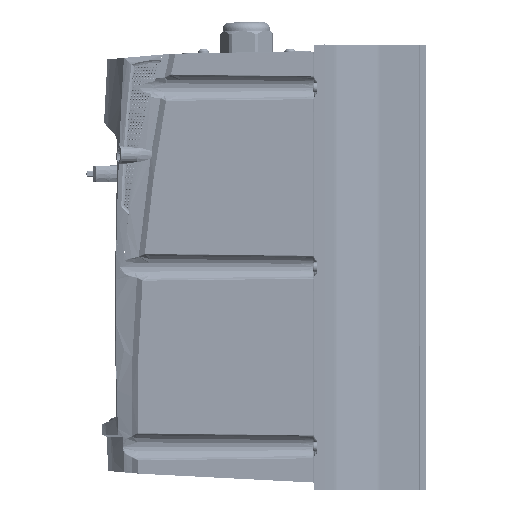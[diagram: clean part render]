
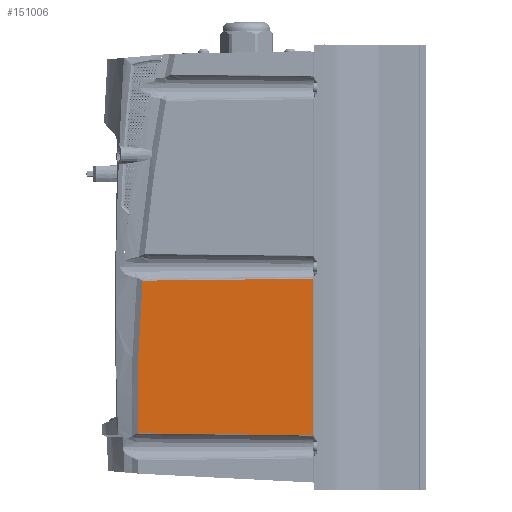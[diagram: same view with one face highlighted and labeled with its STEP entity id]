
A CAD part, left-side view. The second image highlights one B-rep face of the part: STEP entity #151006.
In plain terms, the highlighted planar face has unit normal (-1, 0.018, 0).
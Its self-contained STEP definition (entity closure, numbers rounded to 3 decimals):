
#150970=AXIS2_PLACEMENT_3D('Plane Axis2P3D',#150967,#150968,#150969) ;
#98508=CARTESIAN_POINT('Vertex',(-93.016,127.942,-115.467)) ;
#98512=CARTESIAN_POINT('Control Point',(-93.076,124.492,-9.304)) ;
#98513=CARTESIAN_POINT('Control Point',(-93.029,127.213,-44.617)) ;
#98514=CARTESIAN_POINT('Control Point',(-93.009,128.365,-80.051)) ;
#98515=CARTESIAN_POINT('Control Point',(-93.016,127.942,-115.467)) ;
#98516=CARTESIAN_POINT('Vertex',(-93.076,124.492,-9.304)) ;
#99466=CARTESIAN_POINT('Vertex',(-95.153,5.491,-7.931)) ;
#99497=CARTESIAN_POINT('Line Origine',(-95.153,5.491,0.087)) ;
#99501=CARTESIAN_POINT('Vertex',(-95.153,5.491,-116.895)) ;
#150941=CARTESIAN_POINT('Vertex',(-93.016,127.939,-115.506)) ;
#150945=CARTESIAN_POINT('Control Point',(-93.016,127.942,-115.467)) ;
#150946=CARTESIAN_POINT('Control Point',(-93.016,127.941,-115.48)) ;
#150947=CARTESIAN_POINT('Control Point',(-93.016,127.94,-115.493)) ;
#150948=CARTESIAN_POINT('Control Point',(-93.016,127.939,-115.506)) ;
#150967=CARTESIAN_POINT('Axis2P3D Location',(-95.251,-0.087,-154.913)) ;
#150973=CARTESIAN_POINT('Control Point',(-93.016,127.939,-115.506)) ;
#150974=CARTESIAN_POINT('Control Point',(-93.46,102.523,-115.773)) ;
#150975=CARTESIAN_POINT('Control Point',(-93.896,77.523,-116.045)) ;
#150976=CARTESIAN_POINT('Control Point',(-94.324,52.982,-116.322)) ;
#150977=CARTESIAN_POINT('Control Point',(-94.744,28.95,-116.605)) ;
#150978=CARTESIAN_POINT('Control Point',(-95.153,5.491,-116.895)) ;
#150981=CARTESIAN_POINT('Control Point',(-95.153,5.491,-7.931)) ;
#150982=CARTESIAN_POINT('Control Point',(-94.755,28.315,-8.212)) ;
#150983=CARTESIAN_POINT('Control Point',(-94.347,51.679,-8.488)) ;
#150984=CARTESIAN_POINT('Control Point',(-93.931,75.527,-8.758)) ;
#150985=CARTESIAN_POINT('Control Point',(-93.507,99.81,-9.023)) ;
#150986=CARTESIAN_POINT('Control Point',(-93.076,124.49,-9.284)) ;
#150987=CARTESIAN_POINT('Vertex',(-93.076,124.49,-9.284)) ;
#150991=CARTESIAN_POINT('Control Point',(-93.076,124.492,-9.304)) ;
#150992=CARTESIAN_POINT('Control Point',(-93.076,124.491,-9.3)) ;
#150993=CARTESIAN_POINT('Control Point',(-93.076,124.491,-9.296)) ;
#150994=CARTESIAN_POINT('Control Point',(-93.076,124.491,-9.292)) ;
#150995=CARTESIAN_POINT('Control Point',(-93.076,124.49,-9.288)) ;
#150996=CARTESIAN_POINT('Control Point',(-93.076,124.49,-9.284)) ;
#99498=DIRECTION('Vector Direction',(0.,0.,1.)) ;
#150968=DIRECTION('Axis2P3D Direction',(-1.,0.017,0.)) ;
#150969=DIRECTION('Axis2P3D XDirection',(-0.017,-1.,0.)) ;
#99499=VECTOR('Line Direction',#99498,1.) ;
#150999=ORIENTED_EDGE('',*,*,#98518,.F.) ;
#151000=ORIENTED_EDGE('',*,*,#150949,.T.) ;
#151001=ORIENTED_EDGE('',*,*,#150979,.T.) ;
#151002=ORIENTED_EDGE('',*,*,#99503,.T.) ;
#151003=ORIENTED_EDGE('',*,*,#150989,.T.) ;
#151004=ORIENTED_EDGE('',*,*,#150997,.F.) ;
#151006=ADVANCED_FACE('VERTIMO SIZE C',(#151005),#150971,.T.) ;
#98511=B_SPLINE_CURVE_WITH_KNOTS('',3,(#98512,#98513,#98514,#98515),.UNSPECIFIED.,.F.,.U.,(4,4),(131.431,237.865),.UNSPECIFIED.) ;
#150944=B_SPLINE_CURVE_WITH_KNOTS('',3,(#150945,#150946,#150947,#150948),.UNSPECIFIED.,.F.,.U.,(4,4),(0.,0.056),.UNSPECIFIED.) ;
#150972=B_SPLINE_CURVE_WITH_KNOTS('',5,(#150973,#150974,#150975,#150976,#150977,#150978),.UNSPECIFIED.,.F.,.U.,(6,6),(0.,173.251),.UNSPECIFIED.) ;
#150980=B_SPLINE_CURVE_WITH_KNOTS('',5,(#150981,#150982,#150983,#150984,#150985,#150986),.UNSPECIFIED.,.F.,.U.,(6,6),(0.,168.368),.UNSPECIFIED.) ;
#150990=B_SPLINE_CURVE_WITH_KNOTS('',5,(#150991,#150992,#150993,#150994,#150995,#150996),.UNSPECIFIED.,.F.,.U.,(6,6),(0.,0.028),.UNSPECIFIED.) ;
#98518=EDGE_CURVE('',#98509,#98517,#98511,.F.) ;
#99503=EDGE_CURVE('',#99502,#99467,#99500,.T.) ;
#150949=EDGE_CURVE('',#98509,#150942,#150944,.T.) ;
#150979=EDGE_CURVE('',#150942,#99502,#150972,.T.) ;
#150989=EDGE_CURVE('',#99467,#150988,#150980,.T.) ;
#150997=EDGE_CURVE('',#98517,#150988,#150990,.T.) ;
#150998=EDGE_LOOP('',(#150999,#151000,#151001,#151002,#151003,#151004)) ;
#151005=FACE_OUTER_BOUND('',#150998,.T.) ;
#99500=LINE('Line',#99497,#99499) ;
#150971=PLANE('Plane',#150970) ;
#98509=VERTEX_POINT('',#98508) ;
#98517=VERTEX_POINT('',#98516) ;
#99467=VERTEX_POINT('',#99466) ;
#99502=VERTEX_POINT('',#99501) ;
#150942=VERTEX_POINT('',#150941) ;
#150988=VERTEX_POINT('',#150987) ;
